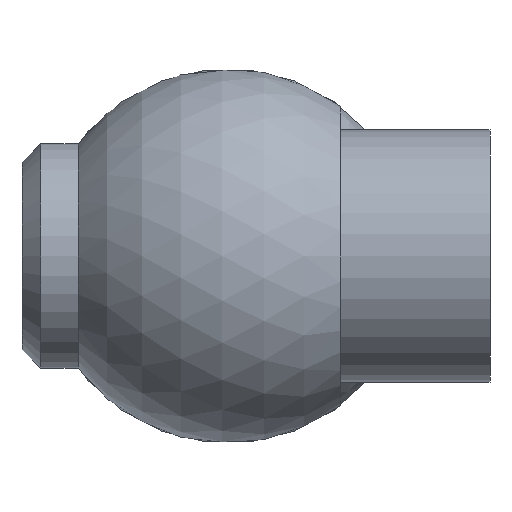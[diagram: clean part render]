
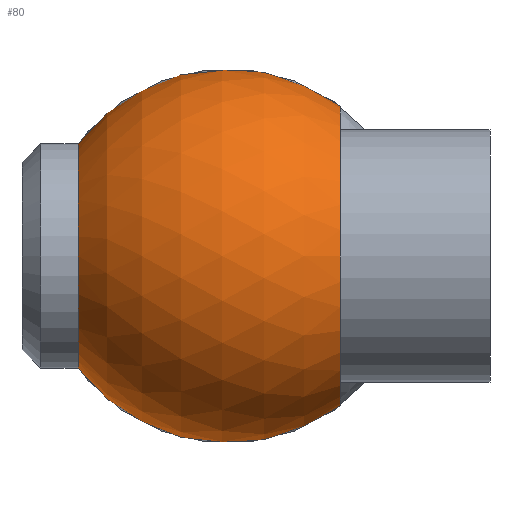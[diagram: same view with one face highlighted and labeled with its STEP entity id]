
A CAD part, left-side view. The second image highlights one B-rep face of the part: STEP entity #80.
In plain terms, the highlighted spherical face has radius 10 mm.
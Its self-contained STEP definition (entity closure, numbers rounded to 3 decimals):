
#80 = ADVANCED_FACE( '', ( #106, #107, #108 ), #109, .T. );
#106 = FACE_OUTER_BOUND( '', #151, .T. );
#107 = FACE_BOUND( '', #152, .T. );
#108 = FACE_OUTER_BOUND( '', #153, .T. );
#109 = SPHERICAL_SURFACE( '', #154, 10. );
#151 = EDGE_LOOP( '', ( #206 ) );
#152 = EDGE_LOOP( '', ( #207 ) );
#153 = EDGE_LOOP( '', ( #208 ) );
#154 = AXIS2_PLACEMENT_3D( '', #209, #210, #211 );
#206 = ORIENTED_EDGE( '', *, *, #264, .T. );
#207 = ORIENTED_EDGE( '', *, *, #259, .T. );
#208 = ORIENTED_EDGE( '', *, *, #265, .F. );
#209 = CARTESIAN_POINT( '', ( 0., 14., 0. ) );
#210 = DIRECTION( '', ( 0., -1., 0. ) );
#211 = DIRECTION( '', ( 1., 0., 0. ) );
#259 = EDGE_CURVE( '', #276, #276, #277, .T. );
#264 = EDGE_CURVE( '', #286, #286, #287, .T. );
#265 = EDGE_CURVE( '', #288, #288, #289, .T. );
#276 = VERTEX_POINT( '', #304 );
#277 = CIRCLE( '', #305, 4.25 );
#286 = VERTEX_POINT( '', #314 );
#287 = CIRCLE( '', #315, 6. );
#288 = VERTEX_POINT( '', #316 );
#289 = CIRCLE( '', #317, 8. );
#304 = CARTESIAN_POINT( '', ( 9.052, 14., 4.25 ) );
#305 = AXIS2_PLACEMENT_3D( '', #334, #335, #336 );
#314 = CARTESIAN_POINT( '', ( 6., 22., 0. ) );
#315 = AXIS2_PLACEMENT_3D( '', #349, #350, #351 );
#316 = CARTESIAN_POINT( '', ( 8., 8., 0. ) );
#317 = AXIS2_PLACEMENT_3D( '', #352, #353, #354 );
#334 = CARTESIAN_POINT( '', ( 9.052, 14., 0. ) );
#335 = DIRECTION( '', ( -1., 0., 0. ) );
#336 = DIRECTION( '', ( 0., 0., 1. ) );
#349 = CARTESIAN_POINT( '', ( 0., 22., 0. ) );
#350 = DIRECTION( '', ( 0., -1., 0. ) );
#351 = DIRECTION( '', ( 1., 0., 0. ) );
#352 = CARTESIAN_POINT( '', ( 0., 8., 0. ) );
#353 = DIRECTION( '', ( 0., -1., 0. ) );
#354 = DIRECTION( '', ( 1., 0., 0. ) );
